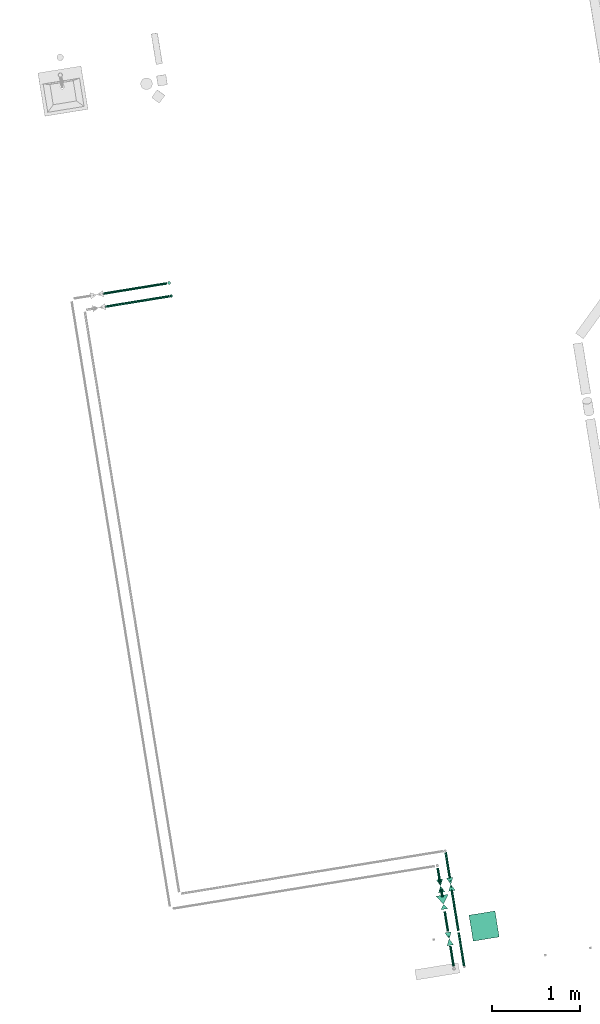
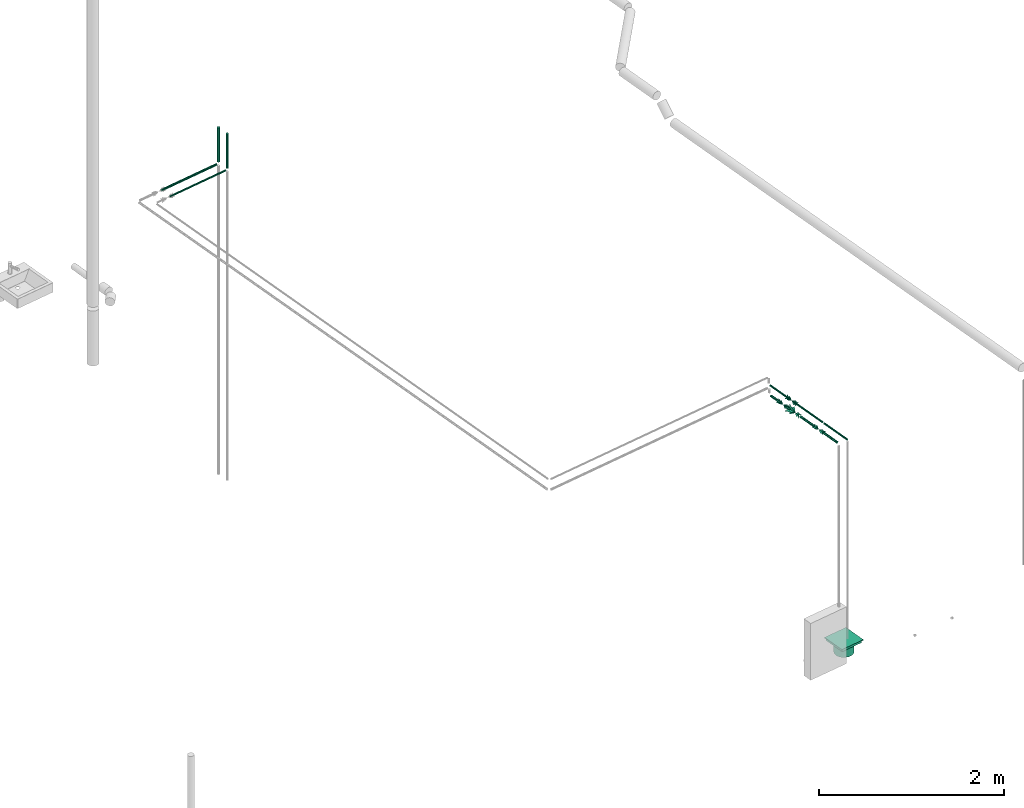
# One storey, part 5 of 10: 11 flow segments, 4 flow controllers, 1 flow terminal.
"""IFC2X3 building model written with IfcOpenShell, lengths in millimetres."""

from ifc_helpers import new_model, entity, si_unit, converted_unit, derived_unit, direction, frame, frame_2d, origin, origin_with_axes, origin_2d_with_axis, place, context, subcontext, project, spatial, polyline, rectangle, circle, hollow_circle, outline, extrude, source, transform, mapped, material, type_object, element, save


model = new_model("IFC2X3")

# Units and contexts
model_context = context("Model", 3, precision=0.01, world=origin(), true_north=direction((6.12323399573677e-17, 1.0)))
plan_context = context("Plan", 3, precision=1e-05, world=origin_with_axes())
body_context = subcontext(model_context, "Body", "Model", "MODEL_VIEW")
ifc_project = project(units=[converted_unit("PLANEANGLEUNIT", "DEGREE", entity("IfcPositiveLengthMeasure", 0.0174532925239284), si_unit("PLANEANGLEUNIT", "RADIAN"), dimensions=[0, 0, 0, 0, 0, 0, 0]), si_unit("AREAUNIT", "SQUARE_METRE"), si_unit("LENGTHUNIT", "METRE", prefix="MILLI"), si_unit("MASSUNIT", "GRAM", prefix="KILO"), si_unit("POWERUNIT", "WATT"), si_unit("PRESSUREUNIT", "PASCAL", prefix="KILO"), si_unit("FORCEUNIT", "NEWTON", prefix="KILO"), si_unit("ELECTRICVOLTAGEUNIT", "VOLT"), si_unit("ELECTRICCURRENTUNIT", "AMPERE"), si_unit("THERMODYNAMICTEMPERATUREUNIT", "DEGREE_CELSIUS"), si_unit("TIMEUNIT", "SECOND"), si_unit("VOLUMEUNIT", "CUBIC_METRE"), derived_unit("LINEARVELOCITYUNIT", [(si_unit("LENGTHUNIT", "METRE"), 1), (si_unit("TIMEUNIT", "SECOND"), -1)]), derived_unit("VOLUMETRICFLOWRATEUNIT", [(si_unit("VOLUMEUNIT", "CUBIC_METRE"), 1), (si_unit("TIMEUNIT", "SECOND"), -1)]), derived_unit("THERMALTRANSMITTANCEUNIT", [(si_unit("POWERUNIT", "WATT"), 1), (si_unit("THERMODYNAMICTEMPERATUREUNIT", "KELVIN"), -1), (si_unit("AREAUNIT", "SQUARE_METRE"), -1)]), derived_unit("SOUNDPRESSUREUNIT", [(si_unit("PRESSUREUNIT", "PASCAL"), 1)])], contexts=[model_context, plan_context])

# Site, building, storey
site_placement = place(None, frame((-0.000710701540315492, 0.00438415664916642, 0.0), z_axis=(0.0, 0.0, 1.0), x_axis=(-0.160236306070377, 0.987078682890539, 0.0)))
site = spatial("IfcSite", under=ifc_project, at=site_placement, Name="Default", CompositionType="ELEMENT")
building_placement = place(site_placement, origin_with_axes())
building = spatial("IfcBuilding", under=site, at=building_placement, CompositionType="ELEMENT")
storey_placement = place(building_placement, frame((0.0, 0.0, 50999.9999999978), z_axis=(0.0, 0.0, 1.0), x_axis=(1.0, 0.0, 0.0)))
storey = spatial("IfcBuildingStorey", under=building, at=storey_placement, Name="Nivå D", CompositionType="ELEMENT", Elevation=50999.9999999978)

# Flow controllers
ifc_material_1 = material(Name="<Unnamed>")
valve_type_1 = type_object("IfcValveType", Name="STENGEVENTIL - MANUELL - 4 - SM:STENGEVENTIL - MANUELL - 20 - SM01T", PredefinedType="NOTDEFINED", material=ifc_material_1)
shared_shape_1 = source(origin(), body_context, "Body", "SweptSolid", [
    extrude(outline(polyline([(-39.1311896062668, -22.3606797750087), (44.7213595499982, -22.3606797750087), (-5.59016994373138, 44.7213595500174), (-39.1311896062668, -22.3606797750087)])), frame((50.0, -1.07349053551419, 0.0), z_axis=(0.0, 1.0, 0.0), x_axis=(-0.894427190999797, 0.0, 0.447213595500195)), (0.0, 0.0, 1.0), 2.13989335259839),
    extrude(outline(polyline([(-37.5000000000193, -25.0), (37.5000000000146, -25.0), (0.0, 50.0), (-37.5000000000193, -25.0)])), frame((-50.0, -1.07349053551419, 0.0), z_axis=(0.0, 1.0, 0.0), x_axis=(0.0, 0.0, 1.0)), (0.0, 0.0, 1.0), 2.13989335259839),
    extrude(outline(polyline([(-37.5000000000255, -25.0), (37.5000000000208, -25.0), (0.0, 50.0), (-37.5000000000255, -25.0)])), frame((50.0, 0.0, -1.0664028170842), z_axis=(0.0, 0.0, 1.0), x_axis=(0.0, 1.0, 0.0)), (0.0, 0.0, 1.0), 2.13989335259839),
    extrude(outline(polyline([(-39.1311896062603, -22.360679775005), (44.7213595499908, -22.360679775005), (-5.59016994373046, 44.72135955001), (-39.1311896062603, -22.360679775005)])), frame((-50.0, 0.0, -1.0664028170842), z_axis=(0.0, 0.0, 1.0), x_axis=(0.894427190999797, 0.447213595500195, 0.0)), (0.0, 0.0, 1.0), 2.13989335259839),
])
flow_controller_1_placement = place(storey_placement, frame((769868.308466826, -596745.303776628, 3000.0), z_axis=(0.0, 0.0, -1.0), x_axis=(1.0, 0.0, 0.0)))
element("IfcFlowController", 1, at=flow_controller_1_placement, inside=storey, type_object=valve_type_1, material=ifc_material_1, Name="STENGEVENTIL - MANUELL - 4 - SM:STENGEVENTIL - MANUELL - 20 - SM01T", ObjectType="STENGEVENTIL - MANUELL - 4 - SM:STENGEVENTIL - MANUELL - 20 - SM01T", context=body_context, shape_type="MappedRepresentation", body=[
    mapped(shared_shape_1, transform((0.0, 0.0, 0.0), scale=1.0)),
])
valve_type_2 = type_object("IfcValveType", Name="STENGEVENTIL - MANUELL - 4 - SM:STENGEVENTIL - MANUELL - 25 - SM01T", PredefinedType="NOTDEFINED", material=ifc_material_1)
flow_controller_2_placement = place(storey_placement, frame((769868.308466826, -596627.303776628, 3000.0), z_axis=(0.0, 0.0, -1.0), x_axis=(1.0, 0.0, 0.0)))
element("IfcFlowController", 2, at=flow_controller_2_placement, inside=storey, type_object=valve_type_2, material=ifc_material_1, Name="STENGEVENTIL - MANUELL - 4 - SM:STENGEVENTIL - MANUELL - 25 - SM01T", ObjectType="STENGEVENTIL - MANUELL - 4 - SM:STENGEVENTIL - MANUELL - 25 - SM01T", context=body_context, shape_type="MappedRepresentation", body=[
    mapped(shared_shape_1, transform((0.0, 0.0, 0.0), scale=1.0)),
])
ifc_material_2 = material(Name="2d_hide")
valve_type_3 = type_object("IfcValveType", Name="TRYKKREDUKSJONSVENTIL -  - SJ:TRYKKREDUKSJONSVENTIL - 25 - SJ01T", PredefinedType="NOTDEFINED", material=ifc_material_2)
shared_shape_2 = source(origin(), body_context, "Body", "SweptSolid", [
    extrude(outline(polyline([(-68.5511266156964, -39.0889224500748), (56.1614474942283, -39.0889224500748), (12.3896791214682, 78.1778449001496), (-68.5511266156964, -39.0889224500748)])), frame((68.4250000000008, -0.267241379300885, -0.1), z_axis=(0.0, 0.0, 1.0), x_axis=(-0.822992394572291, -0.568052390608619, 0.0)), (0.0, 0.0, 1.0), 0.2),
    extrude(outline(polyline([(-38.8661702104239, -22.0895430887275), (32.0298374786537, -22.0895430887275), (6.83633273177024, 44.1790861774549), (-38.8661702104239, -22.0895430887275)])), frame((-38.9083333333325, 0.0, -0.1), z_axis=(0.0, 0.0, 1.0), x_axis=(0.82321278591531, 0.567732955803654, 0.0)), (0.0, 0.0, 1.0), 0.2),
    extrude(outline(polyline([(-71.6449999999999, -34.2125000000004), (71.6449999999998, -34.2125000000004), (0.0, 68.4250000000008), (-71.6449999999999, -34.2125000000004)])), frame((68.4250000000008, -0.1, 0.0), z_axis=(0.0, 1.0, 0.0), x_axis=(0.0, 0.0, -1.0)), (0.0, 0.0, 1.0), 0.2),
    extrude(outline(polyline([(-40.2499999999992, -19.4541666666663), (40.2500000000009, -19.4541666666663), (0.0, 38.9083333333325), (-40.2499999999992, -19.4541666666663)])), frame((-38.9083333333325, -0.1, 0.0), z_axis=(0.0, 1.0, 0.0), x_axis=(0.0, 0.0, 1.0)), (0.0, 0.0, 1.0), 0.2),
])
flow_controller_3_placement = place(storey_placement, frame((769657.61964359, -596627.303776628, 3000.0), z_axis=(0.0, 0.0, 1.0), x_axis=(1.0, 0.0, 0.0)))
element("IfcFlowController", 3, at=flow_controller_3_placement, inside=storey, type_object=valve_type_3, material=ifc_material_2, Name="TRYKKREDUKSJONSVENTIL -  - SJ:TRYKKREDUKSJONSVENTIL - 25 - SJ01T", ObjectType="TRYKKREDUKSJONSVENTIL -  - SJ:TRYKKREDUKSJONSVENTIL - 25 - SJ01T", context=body_context, shape_type="MappedRepresentation", body=[
    mapped(shared_shape_2, transform((0.0, 0.0, 0.0), scale=1.0)),
])
valve_type_4 = type_object("IfcValveType", Name="STENGEVENTIL - MOTORSTYRT -  -:STENGEVENTIL - MOTORSTYRT -  -", PredefinedType="NOTDEFINED", material=ifc_material_2)
shared_shape_3 = source(origin(), body_context, "Body", "SweptSolid", [
    extrude(outline(polyline([(-37.5000000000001, -25.0), (37.5000000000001, -25.0), (0.0, 50.0), (-37.5000000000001, -25.0)])), frame((50.0, 0.0, -0.1), z_axis=(0.0, 0.0, 1.0), x_axis=(0.0, 1.0, 0.0)), (0.0, 0.0, 1.0), 0.2),
    extrude(outline(polyline([(-39.1311896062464, -22.360679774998), (44.7213595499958, -22.3606797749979), (-5.59016994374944, 44.7213595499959), (-39.1311896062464, -22.360679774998)])), frame((-50.0, 0.0, -0.1), z_axis=(0.0, 0.0, 1.0), x_axis=(0.894427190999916, 0.447213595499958, 0.0)), (0.0, 0.0, 1.0), 0.2),
    extrude(outline(polyline([(-39.1311896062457, -22.3606797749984), (44.7213595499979, -22.3606797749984), (-5.5901699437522, 44.7213595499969), (-39.1311896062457, -22.3606797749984)])), frame((50.0, -0.1, 0.0), z_axis=(0.0, 1.0, 0.0), x_axis=(-0.894427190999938, 0.0, 0.447213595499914)), (0.0, 0.0, 1.0), 0.2),
    extrude(outline(polyline([(-37.4999999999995, -25.0), (37.5000000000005, -25.0), (0.0, 50.0), (-37.4999999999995, -25.0)])), frame((-50.0, -0.1, 0.0), z_axis=(0.0, 1.0, 0.0), x_axis=(0.0, 0.0, 1.0)), (0.0, 0.0, 1.0), 0.2),
])
flow_controller_4_placement = place(storey_placement, frame((769257.798145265, -596627.303776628, 3000.0), z_axis=(0.0, 0.0, 1.0), x_axis=(1.0, 0.0, 0.0)))
element("IfcFlowController", 4, at=flow_controller_4_placement, inside=storey, type_object=valve_type_4, material=ifc_material_2, Name="STENGEVENTIL - MOTORSTYRT -  -:STENGEVENTIL - MOTORSTYRT -  -", ObjectType="STENGEVENTIL - MOTORSTYRT -  -:STENGEVENTIL - MOTORSTYRT -  -", context=body_context, shape_type="MappedRepresentation", body=[
    mapped(shared_shape_3, transform((0.0, 0.0, 0.0), scale=1.0)),
])

# Flow terminal
distribution_element_type = type_object("IfcDistributionElementType", Name="SLUK - flis 2 - KN:SLUK -  - KN506T", material=ifc_material_1)
shared_shape_4 = source(origin(), body_context, "Body", "SweptSolid", [
    extrude(rectangle(XDim=272.0, YDim=272.0, at=origin_2d_with_axis()), frame((0.0, 0.0, -41.0)), (0.0, 0.0, 1.0), 31.0),
    extrude(rectangle(XDim=300.0, YDim=300.0, at=origin_2d_with_axis()), frame((0.0, 0.0, -10.0)), (0.0, 0.0, 1.0), 9.99999999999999),
    extrude(circle(Radius=110.5, at=frame_2d((0.0, -1.78517675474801e-13), x_axis=(1.0, 0.0))), frame((0.0, 0.0, -173.0)), (0.0, 0.0, 1.0), 132.0),
    extrude(hollow_circle(Radius=110.5, WallThickness=0.200000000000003, at=frame_2d((0.0, -1.78517675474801e-13), x_axis=(1.0, 0.0))), frame((0.0, 0.0, -148.0)), (0.0, 0.0, 1.0), 103.0),
])
flow_terminal_placement = place(storey_placement, frame((769337.415143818, -597043.320122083, 10.0), z_axis=(0.0, 0.0, 1.0), x_axis=(1.0, 0.0, 0.0)))
element("IfcFlowTerminal", 5, at=flow_terminal_placement, inside=storey, type_object=distribution_element_type, material=ifc_material_1, Name="SLUK - flis 2 - KN:SLUK -  - KN506T", ObjectType="SLUK - flis 2 - KN:SLUK -  - KN506T", context=body_context, shape_type="MappedRepresentation", body=[
    mapped(shared_shape_4, transform((0.0, 0.0, 0.0), scale=1.0)),
])

# Flow segments
pipe_segment_type = type_object("IfcPipeSegmentType", Name="Pipe Types:Kobberrør", PredefinedType="NOTDEFINED")
flow_segment_1_placement = place(storey_placement, origin_with_axes())
element("IfcFlowSegment", 6, at=flow_segment_1_placement, inside=storey, type_object=pipe_segment_type, Name="Pipe Types:Kobberrør", ObjectType="Pipe Types:Kobberrør", context=body_context, shape_type="SweptSolid", body=[
    extrude(circle(Radius=14.0, at=frame_2d((0.0, 6.93034962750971e-11), x_axis=(1.0, 0.0))), frame((776992.383502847, -594676.067617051, 3122.0), z_axis=(0.0, 0.0, 1.0), x_axis=(-1.0, 0.0, 0.0)), (0.0, 0.0, 1.0), 458.000000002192),
])
flow_segment_2_placement = place(storey_placement, origin_with_axes())
element("IfcFlowSegment", 7, at=flow_segment_2_placement, inside=storey, type_object=pipe_segment_type, Name="Pipe Types:Kobberrør", ObjectType="Pipe Types:Kobberrør", context=body_context, shape_type="SweptSolid", body=[
    extrude(circle(Radius=17.5, at=origin_2d_with_axis()), frame((777142.372679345, -594676.067617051, 3128.0), z_axis=(0.0, 0.0, 1.0), x_axis=(-1.0, 0.0, 0.0)), (0.0, 0.0, 1.0), 452.000000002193),
])
flow_segment_3_placement = place(storey_placement, origin_with_axes())
element("IfcFlowSegment", 8, at=flow_segment_3_placement, inside=storey, type_object=pipe_segment_type, Name="Pipe Types:Kobberrør", ObjectType="Pipe Types:Kobberrør", context=body_context, shape_type="SweptSolid", body=[
    extrude(circle(Radius=11.0, at=origin_2d_with_axis()), frame((769899.308466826, -596745.303776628, 3000.0), z_axis=(1.0, 0.0, 0.0), x_axis=(0.0, -1.0, 0.0)), (0.0, 0.0, 1.0), 334.075036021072),
])
flow_segment_4_placement = place(storey_placement, origin_with_axes())
element("IfcFlowSegment", 9, at=flow_segment_4_placement, inside=storey, type_object=pipe_segment_type, Name="Pipe Types:Kobberrør", ObjectType="Pipe Types:Kobberrør", context=body_context, shape_type="SweptSolid", body=[
    extrude(circle(Radius=11.0, at=origin_2d_with_axis()), frame((776992.383502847, -594655.067617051, 3100.0), z_axis=(0.0, 1.0, 0.0), x_axis=(1.0, 0.0, 0.0)), (0.0, 0.0, 1.0), 781.587118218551),
])
flow_segment_5_placement = place(storey_placement, origin_with_axes())
element("IfcFlowSegment", 10, at=flow_segment_5_placement, inside=storey, type_object=pipe_segment_type, Name="Pipe Types:Kobberrør", ObjectType="Pipe Types:Kobberrør", context=body_context, shape_type="SweptSolid", body=[
    extrude(circle(Radius=14.0, at=origin_2d_with_axis()), frame((777142.372679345, -594649.817617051, 3100.0), z_axis=(0.0, 1.0, 0.0), x_axis=(1.0, 0.0, 0.0)), (0.0, 0.0, 1.0), 770.83711821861),
])
flow_segment_6_placement = place(storey_placement, origin_with_axes())
element("IfcFlowSegment", 11, at=flow_segment_6_placement, inside=storey, type_object=pipe_segment_type, Name="Pipe Types:Kobberrør", ObjectType="Pipe Types:Kobberrør", context=body_context, shape_type="SweptSolid", body=[
    extrude(circle(Radius=14.0, at=origin_2d_with_axis()), frame((769904.808466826, -596627.303776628, 3000.0), z_axis=(1.0, 0.0, 0.0), x_axis=(0.0, -1.0, 0.0)), (0.0, 0.0, 1.0), 169.57503602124),
])
flow_segment_7_placement = place(storey_placement, origin_with_axes())
element("IfcFlowSegment", 12, at=flow_segment_7_placement, inside=storey, type_object=pipe_segment_type, Name="Pipe Types:Kobberrør", ObjectType="Pipe Types:Kobberrør", context=body_context, shape_type="SweptSolid", body=[
    extrude(circle(Radius=11.0, at=origin_2d_with_axis()), frame((768913.47664694, -596745.303776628, 3000.0), z_axis=(1.0, 0.0, 0.0), x_axis=(0.0, 1.0, 0.0)), (0.0, 0.0, 1.0), 394.321498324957),
])
flow_segment_8_placement = place(storey_placement, origin_with_axes())
element("IfcFlowSegment", 13, at=flow_segment_8_placement, inside=storey, type_object=pipe_segment_type, Name="Pipe Types:Kobberrør", ObjectType="Pipe Types:Kobberrør", context=body_context, shape_type="SweptSolid", body=[
    extrude(circle(Radius=14.0, at=origin_2d_with_axis()), frame((768941.47664694, -596627.303776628, 3000.0), z_axis=(1.0, 0.0, 0.0), x_axis=(0.0, 1.0, 0.0)), (0.0, 0.0, 1.0), 233.321498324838),
])
flow_segment_9_placement = place(storey_placement, origin_with_axes())
element("IfcFlowSegment", 14, at=flow_segment_9_placement, inside=storey, type_object=pipe_segment_type, Name="Pipe Types:Kobberrør", ObjectType="Pipe Types:Kobberrør", context=body_context, shape_type="SweptSolid", body=[
    extrude(circle(Radius=14.0, at=origin_2d_with_axis()), frame((769741.119644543, -596627.303776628, 3000.0), z_axis=(1.0, 0.0, 0.0), x_axis=(0.0, 1.0, 0.0)), (0.0, 0.0, 1.0), 90.6888222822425),
])
flow_segment_10_placement = place(storey_placement, origin_with_axes())
element("IfcFlowSegment", 15, at=flow_segment_10_placement, inside=storey, type_object=pipe_segment_type, Name="Pipe Types:Kobberrør", ObjectType="Pipe Types:Kobberrør", context=body_context, shape_type="SweptSolid", body=[
    extrude(circle(Radius=14.0, at=origin_2d_with_axis()), frame((769340.798145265, -596627.303776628, 3000.0), z_axis=(1.0, 0.0, 0.0), x_axis=(0.0, 1.0, 0.0)), (0.0, 0.0, 1.0), 233.321498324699),
])
flow_segment_11_placement = place(storey_placement, origin_with_axes())
element("IfcFlowSegment", 16, at=flow_segment_11_placement, inside=storey, type_object=pipe_segment_type, Name="Pipe Types:Kobberrør", ObjectType="Pipe Types:Kobberrør", context=body_context, shape_type="SweptSolid", body=[
    extrude(circle(Radius=11.0, at=origin_2d_with_axis()), frame((769334.798145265, -596745.303776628, 3000.0), z_axis=(1.0, 0.0, 0.0), x_axis=(0.0, 1.0, 0.0)), (0.0, 0.0, 1.0), 502.510321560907),
])

save(model, "model.ifc")
